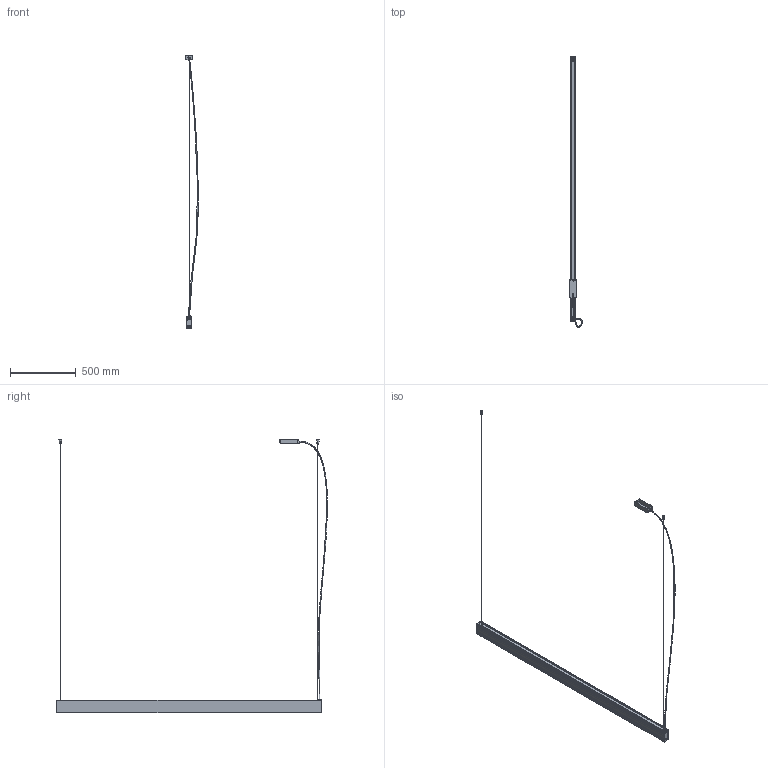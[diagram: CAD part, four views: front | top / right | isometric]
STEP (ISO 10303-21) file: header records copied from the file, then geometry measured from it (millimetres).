
FILE_DESCRIPTION(/* description */ (''),/* implementation_level */ '2;1');
FILE_NAME(/* name */ 'Giano L246__.200',/* time_stamp */ '2025-05-30T08:43:53+02:00',/* author */ (''),/* organization */ (''),/* preprocessor_version */ 'ST-DEVELOPER v16.5',/* originating_system */ '',/* authorisation */ '');
FILE_SCHEMA (('AUTOMOTIVE_DESIGN'));
Length unit declared in the file: millimetre
Products named in the file (21): Document; 3300.0012000.00 (profilo estruso ''A'' Giano ALL 40x97,8mm)_3304.
0012202.00; 3200.0066000.00 (testata di chiusura ACC 42,3x98,2mm sp 2 con molle)_
3210.0066000.00; 3200.0067000.00 (molla testata di chiusura ACC AISI 430 38,1x13,8x16,
4mm sp 0,8)_3209.0067001.00; 3200.0066001.00 (testata di chiusura ACC 42,3x98,2mm sp 2)_3201.00660
01.00; 3200.0067000.00 (molla testata di chiusura ACC AISI 430 38,1x13,8x16,
4mm sp 0,8)_3209.0067002.00; 3300.0013000.00 (profilo estruso ''B'' Giano ALL 10,57x97,8mm)_33
01.0013202.00; 3100.0008000.00 (schermo estruso Giplast 02PE50-A PC 30,4x8,1mm)_3101.
0008202.98; 3100.0008000.00 (schermo estruso Giplast 02PE50-A PC 30,4x8,1mm)_3101.
0008195.98; 3200.0068000.00 (piastrina per sospensione ACC 31,3x34,1mm sp 1)_3205.
0068002.00; 5102.0003000.00 (dado esagonale zigrinato M10 H 4mm FE zincato)_5102.
0003000.00; 4504.0003000.00 (bloccacavo M10 maschio Steab 5100-7+grano EI M7 Stea
b 5408-4-10)_4504.0003001.00; 4504.0016000.00 (bloccacavo M10 maschio Steab 5100-7)_4504.0016001.00; 4504.0002000.00 (grano EI M7 Steab 5408-4-10)_4504.0002000.00; 3200.0068000.00 (piastrina per sospensione ACC 31,3x34,1mm sp 1)_3205.
0068001.00; 5402.0002000.00 (fune ACC 19 fili D 1,2mm con sfera terminale D 5mm)_
5402.0002200.00; 3200.0018000.00 (scatola rosone ACC 136,2x55,4x35mm sp 1,2)_3209.0018
000.00; socket button head screw_iso_ISO 7380 - M4 x 10 - 10N; 3300.0298000.00 (manicotto per sospensione singola ALL D 20mm H 32mm 
con foro M10x1)_3302.0298000.00; 5200.0002000.00 (dispositivo regolazione fune OTTONE nichelato con in
nesto maschio M10 L 14mm)_5200.0002000.00; 5500.0002000.00 (tappo per foro M10 PVC trasparente Steab 6301-10-01)
_5500.0002000.00
Assembly tree (26 placements, depth 3):
  Document
    3300.0012000.00 (profilo estruso ''A'' Giano ALL 40x97,8mm)_3304.
0012202.00
    3200.0066000.00 (testata di chiusura ACC 42,3x98,2mm sp 2 con molle)_
3210.0066000.00  x2
      3200.0067000.00 (molla testata di chiusura ACC AISI 430 38,1x13,8x16,
4mm sp 0,8)_3209.0067001.00
      3200.0066001.00 (testata di chiusura ACC 42,3x98,2mm sp 2)_3201.00660
01.00
      3200.0067000.00 (molla testata di chiusura ACC AISI 430 38,1x13,8x16,
4mm sp 0,8)_3209.0067002.00
    3300.0013000.00 (profilo estruso ''B'' Giano ALL 10,57x97,8mm)_33
01.0013202.00
    3100.0008000.00 (schermo estruso Giplast 02PE50-A PC 30,4x8,1mm)_3101.
0008202.98
    3100.0008000.00 (schermo estruso Giplast 02PE50-A PC 30,4x8,1mm)_3101.
0008195.98
    3200.0068000.00 (piastrina per sospensione ACC 31,3x34,1mm sp 1)_3205.
0068002.00
    5102.0003000.00 (dado esagonale zigrinato M10 H 4mm FE zincato)_5102.
0003000.00
    4504.0003000.00 (bloccacavo M10 maschio Steab 5100-7+grano EI M7 Stea
b 5408-4-10)_4504.0003001.00  x2
      4504.0016000.00 (bloccacavo M10 maschio Steab 5100-7)_4504.0016001.00
      4504.0002000.00 (grano EI M7 Steab 5408-4-10)_4504.0002000.00
    3200.0068000.00 (piastrina per sospensione ACC 31,3x34,1mm sp 1)_3205.
0068001.00
    5402.0002000.00 (fune ACC 19 fili D 1,2mm con sfera terminale D 5mm)_
5402.0002200.00  x2
    3200.0018000.00 (scatola rosone ACC 136,2x55,4x35mm sp 1,2)_3209.0018
000.00
    socket button head screw_iso_ISO 7380 - M4 x 10 - 10N  x2
    3300.0298000.00 (manicotto per sospensione singola ALL D 20mm H 32mm 
con foro M10x1)_3302.0298000.00  x2
    5200.0002000.00 (dispositivo regolazione fune OTTONE nichelato con in
nesto maschio M10 L 14mm)_5200.0002000.00  x2
    5500.0002000.00 (tappo per foro M10 PVC trasparente Steab 6301-10-01)
_5500.0002000.00
Bounding box: 96.7 x 2064.07 x 2086.77 mm (x, y, z)
Volume: 2017437 mm3; surface area: 1912295.2 mm2
Topology: 32 solids, 32 shells, 1309 faces, 3364 edges, 2085 vertices
Faces by surface type: bspline 672, plane 637
Entity records: 38645 total; most frequent: CARTESIAN_POINT 22693, ORIENTED_EDGE 4968, EDGE_CURVE 2484, B_SPLINE_CURVE_WITH_KNOTS 1721, VERTEX_POINT 1572, EDGE_LOOP 996, ADVANCED_FACE 958, FACE_OUTER_BOUND 958
